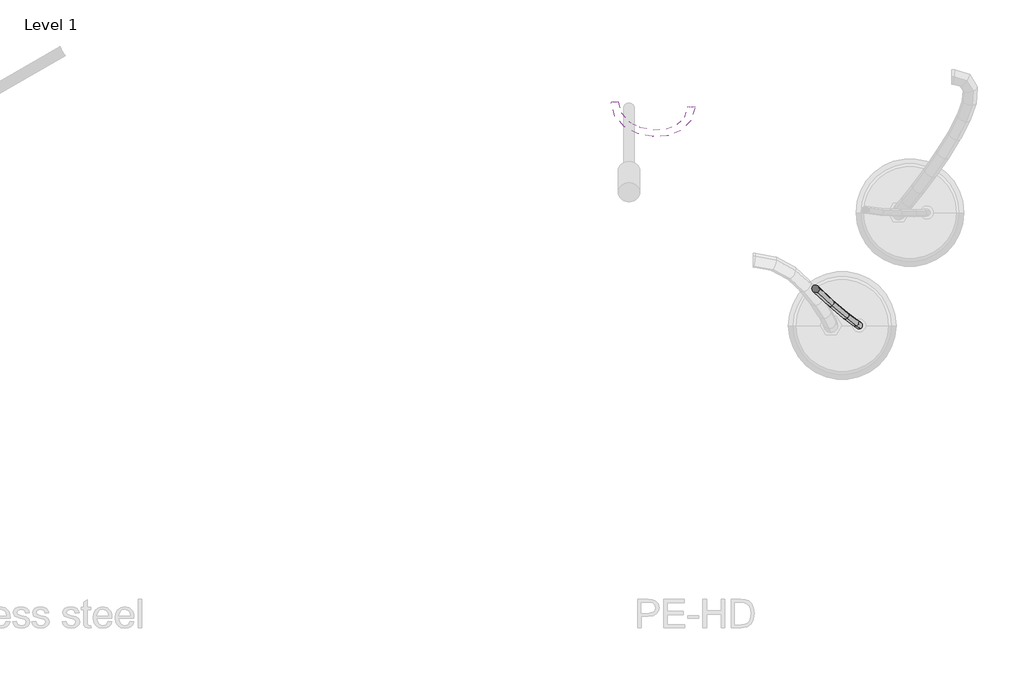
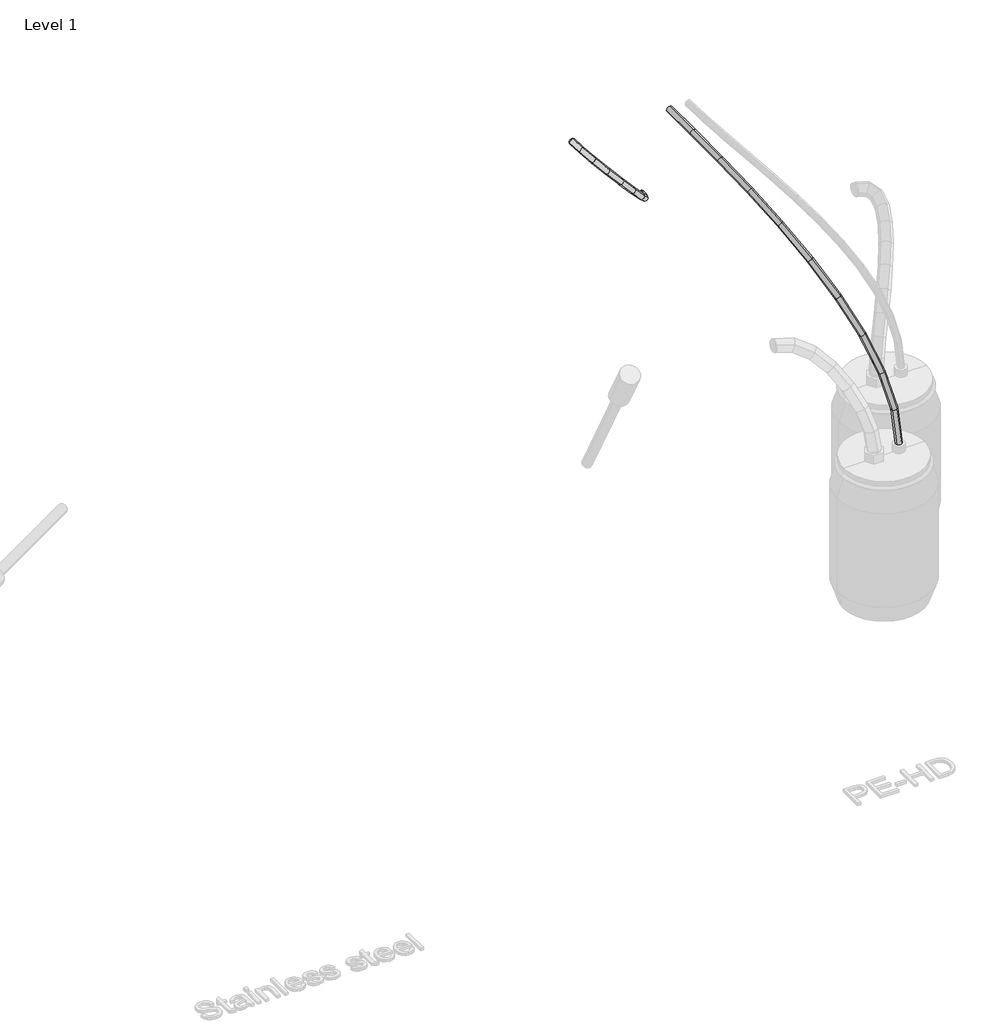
# One storey, part 2 of 6: 2 pipe segments.
"""IFC4 building model written with IfcOpenShell, lengths in millimetres."""

from ifc_helpers import new_model, si_unit, frame, origin, place, context, project, spatial, circle_curve, ellipse_curve, element, save
from ifc_brep_helpers import plane_surface, cylinder_surface, advanced_brep

model = new_model("IFC4")

# Units and contexts
model_context = context("Model", 3, world=origin())
ifc_project = project(units=[si_unit("LENGTHUNIT", "METRE", prefix="MILLI")], contexts=[model_context])

# Site, building, storey
site = spatial("IfcSite", under=ifc_project)
building = spatial("IfcBuilding", under=site)
storey = spatial("IfcBuildingStorey", under=building, Name="Level 1", Elevation=0.0)

# Pipe segments
placement = place(None, origin())
element("IfcPipeSegment", 1, ObjectType="Flex - Round", at=placement, inside=storey, context=model_context, shape_type="AdvancedBrep", body=[
    advanced_brep(
    [(2197.5, 3245.0, 1433.0), (2185.0, 3245.0, 1420.5), (2172.5, 3245.0, 1433.0), (2185.0, 3245.0, 1445.5), (2197.5, 3239.8098259, 1433.0), (2185.0, 3239.5752926, 1420.5), (2172.5, 3243.2327444, 1433.0), (2185.0, 3243.4672777, 1445.5), (1916.5965546, 3262.0, 1752.3976213), (1927.3976213, 3262.0, 1738.4034454), (1913.4034454, 3262.0, 1727.6023787), (1902.6023787, 3262.0, 1741.5965546), (2184.7946426, 3195.4060058, 1447.4464619), (2172.1433818, 3194.6428328, 1435.118451), (2162.0022324, 3206.5442066, 1444.9363506), (2174.6534932, 3207.3073796, 1457.2643615), (2152.0679457, 3163.2609591, 1484.6579284), (2139.1233216, 3162.2096367, 1472.6634825), (2133.5570543, 3178.6045834, 1477.2795716), (2146.5016784, 3179.6559058, 1489.2740175), (2107.4099086, 3146.2638656, 1535.4357706), (2094.2712607, 3145.1386966, 1523.661937), (2091.7307164, 3162.6852501, 1524.8376669), (2104.8693643, 3163.8104191, 1536.6115005), (2056.8225983, 3142.924196, 1592.955416), (2043.544584, 3141.7898264, 1581.3400471), (2043.1774017, 3159.4798607, 1580.044584), (2056.455416, 3160.6142304, 1591.6599529), (2006.2586689, 3152.6296316, 1650.4484764), (1992.8444923, 3151.5213975, 1638.9879291), (1994.6007061, 3168.8038591, 1635.2780861), (2008.0148827, 3169.9120932, 1646.7386334), (1961.7011989, 3175.1993895, 1701.1119701), (1948.1067799, 3174.1824538, 1689.8563651), (1952.6738011, 3190.0411531, 1682.9505299), (1966.2682201, 3191.0580887, 1694.2061349), (1929.2037183, 3211.211569, 1738.0628091), (1915.3473471, 3210.4849164, 1727.1050535), (1923.9994067, 3221.8167684, 1715.5543784), (1937.8557779, 3222.5434209, 1726.512134), (1916.5965546, 3256.9652115, 1752.3976213), (1902.6023787, 3256.7386764, 1741.5965546), (1913.4034454, 3260.2713987, 1727.6023787), (1927.3976213, 3260.4979337, 1738.4034454)],
    [
        (0, 1, circle_curve(frame((2185.0, 3245.0, 1433.0), z_axis=(0.0, 1.0, 0.0), x_axis=(1.0, 0.0, 0.0)), 12.5)),
        (1, 2, circle_curve(frame((2185.0, 3245.0, 1433.0), z_axis=(0.0, 1.0, 0.0), x_axis=(1.0, 0.0, 0.0)), 12.5)),
        (2, 3, circle_curve(frame((2185.0, 3245.0, 1433.0), z_axis=(0.0, 1.0, 0.0), x_axis=(1.0, 0.0, 0.0)), 12.5)),
        (3, 0, circle_curve(frame((2185.0, 3245.0, 1433.0), z_axis=(0.0, 1.0, 0.0), x_axis=(1.0, 0.0, 0.0)), 12.5)),
        (0, 4),
        (4, 5, ellipse_curve(frame((2185.0, 3241.5212852, 1433.0), z_axis=(0.13406582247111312, 0.9791777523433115, -0.15243780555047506), x_axis=(-0.646656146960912, 0.203004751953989, 0.7352719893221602)), 12.7658129, 12.5)),
        (5, 1),
        (5, 6, ellipse_curve(frame((2185.0, 3241.5212852, 1433.0), z_axis=(0.13406582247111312, 0.9791777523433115, -0.15243780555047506), x_axis=(-0.646656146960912, 0.203004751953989, 0.7352719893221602)), 12.7658129, 12.5)),
        (6, 2),
        (6, 7, ellipse_curve(frame((2185.0, 3241.5212852, 1433.0), z_axis=(0.13406582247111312, 0.9791777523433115, -0.15243780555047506), x_axis=(-0.646656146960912, 0.203004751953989, 0.7352719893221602)), 12.7658129, 12.5)),
        (7, 3),
        (7, 4, ellipse_curve(frame((2185.0, 3241.5212852, 1433.0), z_axis=(0.13406582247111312, 0.9791777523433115, -0.15243780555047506), x_axis=(-0.646656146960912, 0.203004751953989, 0.7352719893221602)), 12.7658129, 12.5)),
        (8, 9, circle_curve(frame((1915.0, 3262.0, 1740.0), z_axis=(0.0, 1.0, 0.0), x_axis=(0.12772436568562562, 0.0, 0.9918097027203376)), 12.5)),
        (9, 10, circle_curve(frame((1915.0, 3262.0, 1740.0), z_axis=(0.0, 1.0, 0.0), x_axis=(0.12772436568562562, 0.0, 0.9918097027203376)), 12.5)),
        (10, 11, circle_curve(frame((1915.0, 3262.0, 1740.0), z_axis=(0.0, 1.0, 0.0), x_axis=(0.12772436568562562, 0.0, 0.9918097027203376)), 12.5)),
        (11, 8, circle_curve(frame((1915.0, 3262.0, 1740.0), z_axis=(0.0, 1.0, 0.0), x_axis=(0.12772436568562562, 0.0, 0.9918097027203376)), 12.5)),
        (4, 12),
        (12, 13, ellipse_curve(frame((2173.3984375, 3200.9751062, 1446.1914062), z_axis=(0.4265078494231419, 0.76348509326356, -0.48495522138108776), x_axis=(-0.5042111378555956, 0.6458254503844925, 0.5733067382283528)), 13.0574394, 12.5)),
        (13, 5),
        (13, 14, ellipse_curve(frame((2173.3984375, 3200.9751062, 1446.1914062), z_axis=(0.4265078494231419, 0.76348509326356, -0.48495522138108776), x_axis=(-0.5042111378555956, 0.6458254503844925, 0.5733067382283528)), 13.0574394, 12.5)),
        (14, 6),
        (14, 15, ellipse_curve(frame((2173.3984375, 3200.9751062, 1446.1914062), z_axis=(0.4265078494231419, 0.76348509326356, -0.48495522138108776), x_axis=(-0.5042111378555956, 0.6458254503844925, 0.5733067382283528)), 13.0574394, 12.5)),
        (15, 7),
        (15, 12, ellipse_curve(frame((2173.3984375, 3200.9751062, 1446.1914062), z_axis=(0.4265078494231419, 0.76348509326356, -0.48495522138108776), x_axis=(-0.5042111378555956, 0.6458254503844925, 0.5733067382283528)), 13.0574394, 12.5)),
        (12, 16),
        (16, 17, ellipse_curve(frame((2142.8125, 3170.9327713, 1480.96875), z_axis=(0.6054502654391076, 0.3993854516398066, -0.6884193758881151), x_axis=(-0.2637570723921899, 0.9167831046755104, 0.2999015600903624)), 12.6712508, 12.5)),
        (17, 13),
        (17, 18, ellipse_curve(frame((2142.8125, 3170.9327713, 1480.96875), z_axis=(0.6054502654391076, 0.3993854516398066, -0.6884193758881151), x_axis=(-0.2637570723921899, 0.9167831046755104, 0.2999015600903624)), 12.6712508, 12.5)),
        (18, 14),
        (18, 19, ellipse_curve(frame((2142.8125, 3170.9327713, 1480.96875), z_axis=(0.6054502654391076, 0.3993854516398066, -0.6884193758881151), x_axis=(-0.2637570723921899, 0.9167831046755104, 0.2999015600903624)), 12.6712508, 12.5)),
        (19, 15),
        (19, 16, ellipse_curve(frame((2142.8125, 3170.9327713, 1480.96875), z_axis=(0.6054502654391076, 0.3993854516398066, -0.6884193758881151), x_axis=(-0.2637570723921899, 0.9167831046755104, 0.2999015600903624)), 12.6712508, 12.5)),
        (16, 20),
        (20, 21, ellipse_curve(frame((2099.5703125, 3154.4745578, 1530.1367188), z_axis=(0.6534853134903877, 0.14440552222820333, -0.7430370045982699), x_axis=(-0.09536646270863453, 0.989518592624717, 0.10843520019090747)), 12.5644634, 12.5)),
        (21, 17),
        (21, 22, ellipse_curve(frame((2099.5703125, 3154.4745578, 1530.1367188), z_axis=(0.6534853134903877, 0.14440552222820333, -0.7430370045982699), x_axis=(-0.09536646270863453, 0.989518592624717, 0.10843520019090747)), 12.5644634, 12.5)),
        (22, 18),
        (22, 23, ellipse_curve(frame((2099.5703125, 3154.4745578, 1530.1367188), z_axis=(0.6534853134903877, 0.14440552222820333, -0.7430370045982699), x_axis=(-0.09536646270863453, 0.989518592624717, 0.10843520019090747)), 12.5644634, 12.5)),
        (23, 19),
        (23, 20, ellipse_curve(frame((2099.5703125, 3154.4745578, 1530.1367188), z_axis=(0.6534853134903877, 0.14440552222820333, -0.7430370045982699), x_axis=(-0.09536646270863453, 0.989518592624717, 0.10843520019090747)), 12.5644634, 12.5)),
        (20, 24),
        (24, 25, ellipse_curve(frame((2050.0, 3151.2020284, 1586.5), z_axis=(0.6598452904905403, -0.041247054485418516, -0.7502685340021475), x_axis=(0.027239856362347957, 0.9991489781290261, -0.030972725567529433)), 12.5451109, 12.5)),
        (25, 21),
        (25, 26, ellipse_curve(frame((2050.0, 3151.2020284, 1586.5), z_axis=(0.6598452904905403, -0.041247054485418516, -0.7502685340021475), x_axis=(0.027239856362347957, 0.9991489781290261, -0.030972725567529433)), 12.5451109, 12.5)),
        (26, 22),
        (26, 27, ellipse_curve(frame((2050.0, 3151.2020284, 1586.5), z_axis=(0.6598452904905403, -0.041247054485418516, -0.7502685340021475), x_axis=(0.027239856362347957, 0.9991489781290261, -0.030972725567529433)), 12.5451109, 12.5)),
        (27, 23),
        (27, 24, ellipse_curve(frame((2050.0, 3151.2020284, 1586.5), z_axis=(0.6598452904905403, -0.041247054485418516, -0.7502685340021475), x_axis=(0.027239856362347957, 0.9991489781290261, -0.030972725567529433)), 12.5451109, 12.5)),
        (24, 28),
        (28, 29, ellipse_curve(frame((2000.4296875, 3160.7167453, 1642.8632813), z_axis=(0.6438417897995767, -0.22257222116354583, -0.7320719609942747), x_axis=(0.14698832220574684, 0.9749162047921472, -0.1671311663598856)), 12.5607158, 12.5)),
        (29, 25),
        (29, 30, ellipse_curve(frame((2000.4296875, 3160.7167453, 1642.8632813), z_axis=(0.6438417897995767, -0.22257222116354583, -0.7320719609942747), x_axis=(0.14698832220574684, 0.9749162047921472, -0.1671311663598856)), 12.5607158, 12.5)),
        (30, 26),
        (30, 31, ellipse_curve(frame((2000.4296875, 3160.7167453, 1642.8632813), z_axis=(0.6438417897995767, -0.22257222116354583, -0.7320719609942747), x_axis=(0.14698832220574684, 0.9749162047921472, -0.1671311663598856)), 12.5607158, 12.5)),
        (31, 27),
        (31, 28, ellipse_curve(frame((2000.4296875, 3160.7167453, 1642.8632813), z_axis=(0.6438417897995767, -0.22257222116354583, -0.7320719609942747), x_axis=(0.14698832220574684, 0.9749162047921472, -0.1671311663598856)), 12.5607158, 12.5)),
        (28, 32),
        (32, 33, ellipse_curve(frame((1957.1875, 3182.6202713, 1692.03125), z_axis=(0.5866010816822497, -0.459377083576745, -0.6669871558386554), x_axis=(0.3033759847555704, 0.8882413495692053, -0.3449497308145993)), 12.6506446, 12.5)),
        (33, 29),
        (33, 34, ellipse_curve(frame((1957.1875, 3182.6202713, 1692.03125), z_axis=(0.5866010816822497, -0.459377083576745, -0.6669871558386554), x_axis=(0.3033759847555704, 0.8882413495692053, -0.3449497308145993)), 12.6506446, 12.5)),
        (34, 30),
        (34, 35, ellipse_curve(frame((1957.1875, 3182.6202713, 1692.03125), z_axis=(0.5866010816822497, -0.459377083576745, -0.6669871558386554), x_axis=(0.3033759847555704, 0.8882413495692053, -0.3449497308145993)), 12.6506446, 12.5)),
        (35, 31),
        (35, 32, ellipse_curve(frame((1957.1875, 3182.6202713, 1692.03125), z_axis=(0.5866010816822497, -0.459377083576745, -0.6669871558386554), x_axis=(0.3033759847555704, 0.8882413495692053, -0.3449497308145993)), 12.6506446, 12.5)),
        (32, 36),
        (36, 37, ellipse_curve(frame((1926.6015625, 3216.5141687, 1726.8085938), z_axis=(0.40862644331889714, -0.7855886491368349, -0.4646234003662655), x_axis=(0.5188084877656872, 0.6187491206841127, -0.589904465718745)), 12.9766436, 12.5)),
        (37, 33),
        (37, 38, ellipse_curve(frame((1926.6015625, 3216.5141687, 1726.8085938), z_axis=(0.40862644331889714, -0.7855886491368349, -0.4646234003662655), x_axis=(0.5188084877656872, 0.6187491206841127, -0.589904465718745)), 12.9766436, 12.5)),
        (38, 34),
        (38, 39, ellipse_curve(frame((1926.6015625, 3216.5141687, 1726.8085938), z_axis=(0.40862644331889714, -0.7855886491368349, -0.4646234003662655), x_axis=(0.5188084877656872, 0.6187491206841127, -0.589904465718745)), 12.9766436, 12.5)),
        (39, 35),
        (39, 36, ellipse_curve(frame((1926.6015625, 3216.5141687, 1726.8085938), z_axis=(0.40862644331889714, -0.7855886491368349, -0.4646234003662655), x_axis=(0.5188084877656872, 0.6187491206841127, -0.589904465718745)), 12.9766436, 12.5)),
        (36, 40),
        (40, 41, ellipse_curve(frame((1915.0, 3258.6183051, 1740.0), z_axis=(0.12967305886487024, -0.9805332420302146, -0.1474430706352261), x_axis=(0.6475513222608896, 0.19635315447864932, -0.7362898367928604)), 12.7481655, 12.5)),
        (41, 37),
        (41, 42, ellipse_curve(frame((1915.0, 3258.6183051, 1740.0), z_axis=(0.12967305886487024, -0.9805332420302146, -0.1474430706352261), x_axis=(0.6475513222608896, 0.19635315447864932, -0.7362898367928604)), 12.7481655, 12.5)),
        (42, 38),
        (42, 43, ellipse_curve(frame((1915.0, 3258.6183051, 1740.0), z_axis=(0.12967305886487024, -0.9805332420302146, -0.1474430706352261), x_axis=(0.6475513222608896, 0.19635315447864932, -0.7362898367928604)), 12.7481655, 12.5)),
        (43, 39),
        (43, 40, ellipse_curve(frame((1915.0, 3258.6183051, 1740.0), z_axis=(0.12967305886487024, -0.9805332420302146, -0.1474430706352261), x_axis=(0.6475513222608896, 0.19635315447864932, -0.7362898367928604)), 12.7481655, 12.5)),
        (40, 8),
        (11, 41),
        (10, 42),
        (9, 43),
    ],
    [
        plane_surface(frame((2172.5, 3245.0, 1433.0), z_axis=(0.0, 1.0, 0.0), x_axis=(0.0, 0.0, -1.0))),
        cylinder_surface(frame((2185.0, 3245.0, 1433.0), z_axis=(0.0, 1.0, 0.0), x_axis=(1.0, 0.0, 0.0)), 12.5),
        plane_surface(frame((1902.5, 3262.0, 1740.0), z_axis=(0.0, 1.0, 0.0), x_axis=(0.0, 0.0, 1.0))),
        cylinder_surface(frame((2185.0, 3241.5212852, 1433.0), z_axis=(0.26254854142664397, 0.917578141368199, -0.2985274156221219), x_axis=(0.964052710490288, -0.26254854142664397, 0.04087339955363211)), 12.5),
        cylinder_surface(frame((2173.3984375, 3200.9751062, 1446.1914062), z_axis=(0.554050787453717, 0.5442036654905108, -0.6299762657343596), x_axis=(0.801209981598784, -0.5540507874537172, 0.226031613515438)), 12.5),
        cylinder_surface(frame((2142.8125, 3170.9327713, 1480.96875), z_axis=(0.6404845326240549, 0.2437719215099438, -0.7282546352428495), x_axis=(0.6701803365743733, -0.6404845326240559, 0.3750171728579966)), 12.5),
        cylinder_surface(frame((2099.5703125, 3154.4745578, 1530.1367188), z_axis=(0.6597805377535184, 0.0435573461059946, -0.7501949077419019), x_axis=(0.582859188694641, -0.6597805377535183, 0.47430455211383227)), 12.5),
        cylinder_surface(frame((2050.0, 3151.2020284, 1586.5), z_axis=(0.6551645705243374, -0.12575481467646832, -0.7449463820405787), x_axis=(0.5090157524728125, -0.6551645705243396, 0.558267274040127)), 12.5),
        cylinder_surface(frame((2000.4296875, 3160.7167453, 1642.8632813), z_axis=(0.6262946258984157, -0.31723789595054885, -0.7121201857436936), x_axis=(0.4255027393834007, -0.626294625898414, 0.6532246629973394)), 12.5),
        cylinder_surface(frame((1957.1875, 3182.6202713, 1692.03125), z_axis=(0.532936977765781, -0.5905756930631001, -0.6059690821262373), x_axis=(0.3062897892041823, -0.5329369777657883, 0.7887742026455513)), 12.5),
        cylinder_surface(frame((1926.6015625, 3216.5141687, 1726.8085938), z_axis=(0.25429748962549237, -0.9228908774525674, -0.28914566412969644), x_axis=(0.16135457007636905, -0.2542974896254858, 0.9535709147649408)), 12.5),
        cylinder_surface(frame((1915.0, 3258.6183051, 1740.0), z_axis=(0.0, -1.0, 0.0), x_axis=(0.12772436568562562, 0.0, 0.9918097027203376)), 12.5),
    ],
    [
        (0, [[1, 2, 3, 4]]),
        (1, [[-1, 5, 6, 7]]),
        (1, [[-2, -7, 8, 9]]),
        (1, [[-3, -9, 10, 11]]),
        (1, [[-4, -11, 12, -5]]),
        (2, [[13, 14, 15, 16]]),
        (3, [[-6, 17, 18, 19]]),
        (3, [[-8, -19, 20, 21]]),
        (3, [[-10, -21, 22, 23]]),
        (3, [[-12, -23, 24, -17]]),
        (4, [[-18, 25, 26, 27]]),
        (4, [[-20, -27, 28, 29]]),
        (4, [[-22, -29, 30, 31]]),
        (4, [[-24, -31, 32, -25]]),
        (5, [[-26, 33, 34, 35]]),
        (5, [[-28, -35, 36, 37]]),
        (5, [[-30, -37, 38, 39]]),
        (5, [[-32, -39, 40, -33]]),
        (6, [[-34, 41, 42, 43]]),
        (6, [[-36, -43, 44, 45]]),
        (6, [[-38, -45, 46, 47]]),
        (6, [[-40, -47, 48, -41]]),
        (7, [[-42, 49, 50, 51]]),
        (7, [[-44, -51, 52, 53]]),
        (7, [[-46, -53, 54, 55]]),
        (7, [[-48, -55, 56, -49]]),
        (8, [[-50, 57, 58, 59]]),
        (8, [[-52, -59, 60, 61]]),
        (8, [[-54, -61, 62, 63]]),
        (8, [[-56, -63, 64, -57]]),
        (9, [[-58, 65, 66, 67]]),
        (9, [[-60, -67, 68, 69]]),
        (9, [[-62, -69, 70, 71]]),
        (9, [[-64, -71, 72, -65]]),
        (10, [[-66, 73, 74, 75]]),
        (10, [[-68, -75, 76, 77]]),
        (10, [[-70, -77, 78, 79]]),
        (10, [[-72, -79, 80, -73]]),
        (11, [[-74, 81, -16, 82]]),
        (11, [[-76, -82, -15, 83]]),
        (11, [[-78, -83, -14, 84]]),
        (11, [[-80, -84, -13, -81]]),
    ],
),
])
element("IfcPipeSegment", 2, ObjectType="Flex - Round", at=placement, inside=storey, context=model_context, shape_type="AdvancedBrep", body=[
    advanced_brep(
    [(2322.4444711, 3263.1769193, 1740.0), (2309.848452, 3263.6024332, 1727.6040635), (2297.5555289, 3260.8230807, 1740.0), (2310.151548, 3260.3975668, 1752.3959365), (2335.5061145, 3125.0661378, 1721.9866155), (2322.8659732, 3125.9581898, 1709.6515282), (2310.8138855, 3120.6323004, 1721.7153274), (2323.4540268, 3119.7402483, 1734.0504146), (2791.2875626, 2475.3280788, 628.3074562), (2785.2556493, 2458.7186648, 628.8007998), (2768.7124374, 2464.6719212, 626.962084), (2774.7443507, 2481.2813352, 626.4687405), (2370.7699568, 2998.635336, 1671.3173548), (2357.8876976, 3000.3954489, 1659.3301575), (2346.9900432, 2990.9305909, 1669.7351956), (2359.8723024, 2989.170478, 1681.722393), (2422.9658123, 2883.4727476, 1592.1740209), (2409.7350534, 2886.0017745, 1580.7152452), (2400.0741877, 2873.8081216, 1589.2449702), (2413.3049466, 2871.2790947, 1600.7037458), (2486.5651983, 2780.6116849, 1489.0685121), (2472.9217366, 2783.8081875, 1478.2787985), (2464.3148017, 2769.9099828, 1485.0999208), (2477.9582634, 2766.7134803, 1495.8896345), (2555.9428506, 2691.0695604, 1366.6401007), (2541.8351633, 2694.8652149, 1356.6695905), (2534.0571494, 2679.8971651, 1362.0279439), (2548.1648367, 2676.1015106, 1371.9984541), (2625.4444626, 2615.7966567, 1229.5637329), (2610.8178892, 2620.1542846, 1220.6166092), (2603.6755374, 2604.4977885, 1224.7212614), (2618.3021108, 2600.1401605, 1233.6683851), (2689.4124452, 2555.6959673, 1082.5041511), (2674.2083926, 2560.5961619, 1074.8846267), (2667.5475548, 2544.4872624, 1077.8822993), (2682.7516074, 2539.5870678, 1085.5018237), (2742.1861364, 2511.6485081, 930.0946183), (2726.3611444, 2517.0669687, 924.2683569), (2720.0538636, 2500.6629736, 926.2449628), (2735.8788556, 2495.244513, 932.0712243), (2778.0835851, 2484.5375542, 776.9234479), (2761.6724427, 2490.3986951, 773.5982368), (2755.5964149, 2473.82005, 774.5881071), (2772.0075573, 2467.9589091, 777.9133182)],
    [
        (0, 1, circle_curve(frame((2310.0, 3262.0, 1740.0), z_axis=(-0.09336970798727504, 0.9872695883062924, 0.1287666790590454), x_axis=(0.9955576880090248, 0.09415354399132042, 0.0)), 12.5)),
        (1, 2, circle_curve(frame((2310.0, 3262.0, 1740.0), z_axis=(-0.09336970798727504, 0.9872695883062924, 0.1287666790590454), x_axis=(0.9955576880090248, 0.09415354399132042, 0.0)), 12.5)),
        (2, 3, circle_curve(frame((2310.0, 3262.0, 1740.0), z_axis=(-0.09336970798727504, 0.9872695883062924, 0.1287666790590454), x_axis=(0.9955576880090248, 0.09415354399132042, 0.0)), 12.5)),
        (3, 0, circle_curve(frame((2310.0, 3262.0, 1740.0), z_axis=(-0.09336970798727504, 0.9872695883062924, 0.1287666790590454), x_axis=(0.9955576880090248, 0.09415354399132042, 0.0)), 12.5)),
        (0, 4),
        (4, 5, ellipse_curve(frame((2323.16, 3122.8492191, 1721.8509714), z_axis=(-0.17388533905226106, 0.9532543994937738, 0.24712332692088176), x_axis=(0.5358905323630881, 0.30213303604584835, -0.7883761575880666)), 12.6367811, 12.5)),
        (5, 1),
        (5, 6, ellipse_curve(frame((2323.16, 3122.8492191, 1721.8509714), z_axis=(-0.17388533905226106, 0.9532543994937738, 0.24712332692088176), x_axis=(0.5358905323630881, 0.30213303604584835, -0.7883761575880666)), 12.6367811, 12.5)),
        (6, 2),
        (6, 7, ellipse_curve(frame((2323.16, 3122.8492191, 1721.8509714), z_axis=(-0.17388533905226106, 0.9532543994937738, 0.24712332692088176), x_axis=(0.5358905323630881, 0.30213303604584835, -0.7883761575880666)), 12.6367811, 12.5)),
        (7, 3),
        (7, 4, ellipse_curve(frame((2323.16, 3122.8492191, 1721.8509714), z_axis=(-0.17388533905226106, 0.9532543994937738, 0.24712332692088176), x_axis=(0.5358905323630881, 0.30213303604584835, -0.7883761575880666)), 12.6367811, 12.5)),
        (8, 9, circle_curve(frame((2780.0, 2470.0, 627.6347701), z_axis=(0.08832957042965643, -0.06160787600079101, -0.9941842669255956), x_axis=(0.9030050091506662, 0.42624630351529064, 0.05381488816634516)), 12.5)),
        (9, 10, circle_curve(frame((2780.0, 2470.0, 627.6347701), z_axis=(0.08832957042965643, -0.06160787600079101, -0.9941842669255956), x_axis=(0.9030050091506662, 0.42624630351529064, 0.05381488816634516)), 12.5)),
        (10, 11, circle_curve(frame((2780.0, 2470.0, 627.6347701), z_axis=(0.08832957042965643, -0.06160787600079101, -0.9941842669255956), x_axis=(0.9030050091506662, 0.42624630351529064, 0.05381488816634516)), 12.5)),
        (11, 8, circle_curve(frame((2780.0, 2470.0, 627.6347701), z_axis=(0.08832957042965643, -0.06160787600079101, -0.9941842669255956), x_axis=(0.9030050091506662, 0.42624630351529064, 0.05381488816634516)), 12.5)),
        (4, 12),
        (12, 13, ellipse_curve(frame((2358.88, 2994.7829635, 1670.5262752), z_axis=(-0.3023603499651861, 0.8411178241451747, 0.4484406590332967), x_axis=(0.4236268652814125, 0.5400234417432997, -0.7272653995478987)), 12.5867138, 12.5)),
        (13, 5),
        (13, 14, ellipse_curve(frame((2358.88, 2994.7829635, 1670.5262752), z_axis=(-0.3023603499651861, 0.8411178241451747, 0.4484406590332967), x_axis=(0.4236268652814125, 0.5400234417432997, -0.7272653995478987)), 12.5867138, 12.5)),
        (14, 6),
        (14, 15, ellipse_curve(frame((2358.88, 2994.7829635, 1670.5262752), z_axis=(-0.3023603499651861, 0.8411178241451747, 0.4484406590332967), x_axis=(0.4236268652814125, 0.5400234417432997, -0.7272653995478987)), 12.5867138, 12.5)),
        (15, 7),
        (15, 12, ellipse_curve(frame((2358.88, 2994.7829635, 1670.5262752), z_axis=(-0.3023603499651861, 0.8411178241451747, 0.4484406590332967), x_axis=(0.4236268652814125, 0.5400234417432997, -0.7272653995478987)), 12.5867138, 12.5)),
        (12, 16),
        (16, 17, ellipse_curve(frame((2411.52, 2878.6404346, 1590.7094955), z_axis=(-0.3765687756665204, 0.7125064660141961, 0.592056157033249), x_axis=(0.2807175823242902, 0.6968166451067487, -0.6600334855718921)), 12.5504223, 12.5)),
        (17, 13),
        (17, 18, ellipse_curve(frame((2411.52, 2878.6404346, 1590.7094955), z_axis=(-0.3765687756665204, 0.7125064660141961, 0.592056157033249), x_axis=(0.2807175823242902, 0.6968166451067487, -0.6600334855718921)), 12.5504223, 12.5)),
        (18, 14),
        (18, 19, ellipse_curve(frame((2411.52, 2878.6404346, 1590.7094955), z_axis=(-0.3765687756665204, 0.7125064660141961, 0.592056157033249), x_axis=(0.2807175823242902, 0.6968166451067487, -0.6600334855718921)), 12.5504223, 12.5)),
        (19, 15),
        (19, 16, ellipse_curve(frame((2411.52, 2878.6404346, 1590.7094955), z_axis=(-0.3765687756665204, 0.7125064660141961, 0.592056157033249), x_axis=(0.2807175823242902, 0.6968166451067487, -0.6600334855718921)), 12.5504223, 12.5)),
        (16, 20),
        (20, 21, ellipse_curve(frame((2475.44, 2775.2608339, 1487.0842165), z_axis=(-0.409081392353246, 0.5935092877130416, 0.6931083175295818), x_axis=(0.11226798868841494, 0.7865379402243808, -0.6072511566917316)), 12.5308964, 12.5)),
        (21, 17),
        (21, 22, ellipse_curve(frame((2475.44, 2775.2608339, 1487.0842165), z_axis=(-0.409081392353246, 0.5935092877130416, 0.6931083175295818), x_axis=(0.11226798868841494, 0.7865379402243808, -0.6072511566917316)), 12.5308964, 12.5)),
        (22, 18),
        (22, 23, ellipse_curve(frame((2475.44, 2775.2608339, 1487.0842165), z_axis=(-0.409081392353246, 0.5935092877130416, 0.6931083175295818), x_axis=(0.11226798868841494, 0.7865379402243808, -0.6072511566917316)), 12.5308964, 12.5)),
        (23, 19),
        (23, 20, ellipse_curve(frame((2475.44, 2775.2608339, 1487.0842165), z_axis=(-0.409081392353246, 0.5935092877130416, 0.6931083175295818), x_axis=(0.11226798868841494, 0.7865379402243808, -0.6072511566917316)), 12.5308964, 12.5)),
        (20, 24),
        (24, 25, ellipse_curve(frame((2545.0, 2685.4833628, 1364.3340223), z_axis=(-0.41176002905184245, 0.4892053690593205, 0.7688509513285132), x_axis=(-0.08306120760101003, 0.8200337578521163, -0.5662556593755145)), 12.5219183, 12.5)),
        (25, 21),
        (25, 26, ellipse_curve(frame((2545.0, 2685.4833628, 1364.3340223), z_axis=(-0.41176002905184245, 0.4892053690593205, 0.7688509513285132), x_axis=(-0.08306120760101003, 0.8200337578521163, -0.5662556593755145)), 12.5219183, 12.5)),
        (26, 22),
        (26, 27, ellipse_curve(frame((2545.0, 2685.4833628, 1364.3340223), z_axis=(-0.41176002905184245, 0.4892053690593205, 0.7688509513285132), x_axis=(-0.08306120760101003, 0.8200337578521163, -0.5662556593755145)), 12.5219183, 12.5)),
        (27, 23),
        (27, 24, ellipse_curve(frame((2545.0, 2685.4833628, 1364.3340223), z_axis=(-0.41176002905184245, 0.4892053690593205, 0.7688509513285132), x_axis=(-0.08306120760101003, 0.8200337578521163, -0.5662556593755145)), 12.5219183, 12.5)),
        (24, 28),
        (28, 29, ellipse_curve(frame((2614.56, 2610.1472226, 1227.1424971), z_axis=(-0.39041938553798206, 0.39599939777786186, 0.8311180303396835), x_axis=(-0.2941042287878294, 0.8018121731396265, -0.5201922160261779)), 12.5192616, 12.5)),
        (29, 25),
        (29, 30, ellipse_curve(frame((2614.56, 2610.1472226, 1227.1424971), z_axis=(-0.39041938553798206, 0.39599939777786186, 0.8311180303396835), x_axis=(-0.2941042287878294, 0.8018121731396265, -0.5201922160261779)), 12.5192616, 12.5)),
        (30, 26),
        (30, 31, ellipse_curve(frame((2614.56, 2610.1472226, 1227.1424971), z_axis=(-0.39041938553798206, 0.39599939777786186, 0.8311180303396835), x_axis=(-0.2941042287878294, 0.8018121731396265, -0.5201922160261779)), 12.5192616, 12.5)),
        (31, 27),
        (31, 28, ellipse_curve(frame((2614.56, 2610.1472226, 1227.1424971), z_axis=(-0.39041938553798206, 0.39599939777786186, 0.8311180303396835), x_axis=(-0.2941042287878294, 0.8018121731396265, -0.5201922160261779)), 12.5192616, 12.5)),
        (28, 32),
        (32, 33, ellipse_curve(frame((2678.48, 2550.0916148, 1080.1932252), z_axis=(-0.3451726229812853, 0.3077212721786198, 0.8866586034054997), x_axis=(-0.49263233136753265, 0.7447140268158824, -0.45023816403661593)), 12.5216156, 12.5)),
        (33, 29),
        (33, 34, ellipse_curve(frame((2678.48, 2550.0916148, 1080.1932252), z_axis=(-0.3451726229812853, 0.3077212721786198, 0.8866586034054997), x_axis=(-0.49263233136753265, 0.7447140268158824, -0.45023816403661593)), 12.5216156, 12.5)),
        (34, 30),
        (34, 35, ellipse_curve(frame((2678.48, 2550.0916148, 1080.1932252), z_axis=(-0.3451726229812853, 0.3077212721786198, 0.8866586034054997), x_axis=(-0.49263233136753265, 0.7447140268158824, -0.45023816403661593)), 12.5216156, 12.5)),
        (35, 31),
        (35, 32, ellipse_curve(frame((2678.48, 2550.0916148, 1080.1932252), z_axis=(-0.3451726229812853, 0.3077212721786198, 0.8866586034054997), x_axis=(-0.49263233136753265, 0.7447140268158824, -0.45023816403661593)), 12.5216156, 12.5)),
        (32, 36),
        (36, 37, ellipse_curve(frame((2731.12, 2506.1557409, 928.1697906), z_axis=(-0.2709081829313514, 0.21716260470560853, 0.937789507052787), x_axis=(-0.6534148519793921, 0.6739081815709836, -0.3448141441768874)), 12.530268, 12.5)),
        (37, 33),
        (37, 38, ellipse_curve(frame((2731.12, 2506.1557409, 928.1697906), z_axis=(-0.2709081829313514, 0.21716260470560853, 0.937789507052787), x_axis=(-0.6534148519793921, 0.6739081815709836, -0.3448141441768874)), 12.530268, 12.5)),
        (38, 34),
        (38, 39, ellipse_curve(frame((2731.12, 2506.1557409, 928.1697906), z_axis=(-0.2709081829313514, 0.21716260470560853, 0.937789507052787), x_axis=(-0.6534148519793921, 0.6739081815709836, -0.3448141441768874)), 12.530268, 12.5)),
        (39, 35),
        (39, 36, ellipse_curve(frame((2731.12, 2506.1557409, 928.1697906), z_axis=(-0.2709081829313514, 0.21716260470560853, 0.937789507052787), x_axis=(-0.6534148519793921, 0.6739081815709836, -0.3448141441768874)), 12.530268, 12.5)),
        (36, 40),
        (40, 41, ellipse_curve(frame((2766.84, 2479.1788021, 775.7557775), z_axis=(-0.1572184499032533, 0.11617572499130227, 0.9807066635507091), x_axis=(-0.7685872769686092, 0.6091807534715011, -0.1953776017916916)), 12.5496021, 12.5)),
        (41, 37),
        (41, 42, ellipse_curve(frame((2766.84, 2479.1788021, 775.7557775), z_axis=(-0.1572184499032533, 0.11617572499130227, 0.9807066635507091), x_axis=(-0.7685872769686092, 0.6091807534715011, -0.1953776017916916)), 12.5496021, 12.5)),
        (42, 38),
        (42, 43, ellipse_curve(frame((2766.84, 2479.1788021, 775.7557775), z_axis=(-0.1572184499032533, 0.11617572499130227, 0.9807066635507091), x_axis=(-0.7685872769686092, 0.6091807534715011, -0.1953776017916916)), 12.5496021, 12.5)),
        (43, 39),
        (43, 40, ellipse_curve(frame((2766.84, 2479.1788021, 775.7557775), z_axis=(-0.1572184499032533, 0.11617572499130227, 0.9807066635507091), x_axis=(-0.7685872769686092, 0.6091807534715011, -0.1953776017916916)), 12.5496021, 12.5)),
        (40, 8),
        (11, 41),
        (10, 42),
        (9, 43),
    ],
    [
        plane_surface(frame((2310.0, 3263.6166458, 1727.6049826), z_axis=(-0.09336970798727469, 0.9872695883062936, 0.12876667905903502), x_axis=(0.995631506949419, 0.09258553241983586, 0.012075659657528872))),
        cylinder_surface(frame((2310.0, 3262.0, 1740.0), z_axis=(-0.09336970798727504, 0.9872695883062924, 0.1287666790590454), x_axis=(0.9955576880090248, 0.09415354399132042, 0.0)), 12.5),
        plane_surface(frame((2780.0, 2482.4760685, 626.8616498), z_axis=(0.08832957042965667, -0.06160787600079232, -0.9941842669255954), x_axis=(0.9960913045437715, 0.005463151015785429, 0.08816046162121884))),
        cylinder_surface(frame((2323.16, 3122.8492191, 1721.8509714), z_axis=(-0.2506366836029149, 0.8986030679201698, 0.36013022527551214), x_axis=(0.9665673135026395, 0.253081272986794, 0.041200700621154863)), 12.5),
        cylinder_surface(frame((2358.88, 2994.7829635, 1670.5262752), z_axis=(-0.34991790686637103, 0.772043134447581, 0.5305721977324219), x_axis=(0.9297371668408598, 0.3555368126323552, 0.0958247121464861)), 12.5),
        cylinder_surface(frame((2411.52, 2878.6404346, 1590.7094955), z_axis=(-0.4001938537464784, 0.6472446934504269, 0.6487828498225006), x_axis=(0.8995709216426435, 0.4126144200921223, 0.14325326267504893)), 12.5),
        cylinder_surface(frame((2475.44, 2775.2608339, 1487.0842165), z_axis=(-0.4159516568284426, 0.5368471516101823, 0.7340159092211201), x_axis=(0.8800845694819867, 0.44088588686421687, 0.17626907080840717)), 12.5),
        cylinder_surface(frame((2545.0, 2685.4833628, 1364.3340223), z_axis=(-0.40612691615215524, 0.43985098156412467, 0.8009944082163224), x_axis=(0.8708815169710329, 0.45181988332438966, 0.19345329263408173)), 12.5),
        cylinder_surface(frame((2614.56, 2610.1472226, 1227.1424971), z_axis=(-0.3735104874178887, 0.3509292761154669, 0.8586842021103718), x_axis=(0.8706424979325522, 0.452062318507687, 0.19396211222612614)), 12.5),
        cylinder_surface(frame((2678.48, 2550.0916148, 1080.1932252), z_axis=(-0.3156430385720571, 0.2634508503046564, 0.9115717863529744), x_axis=(0.8779362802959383, 0.44555991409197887, 0.17522628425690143)), 12.5),
        cylinder_surface(frame((2731.12, 2506.1557409, 928.1697906), z_axis=(-0.22486452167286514, 0.16982520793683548, 0.9594765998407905), x_axis=(0.890530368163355, 0.43546437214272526, 0.13162995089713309)), 12.5),
        cylinder_surface(frame((2766.84, 2479.1788021, 775.7557775), z_axis=(-0.08832957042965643, 0.06160787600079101, 0.9941842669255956), x_axis=(0.9030050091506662, 0.42624630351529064, 0.05381488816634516)), 12.5),
    ],
    [
        (0, [[1, 2, 3, 4]]),
        (1, [[-1, 5, 6, 7]]),
        (1, [[-2, -7, 8, 9]]),
        (1, [[-3, -9, 10, 11]]),
        (1, [[-4, -11, 12, -5]]),
        (2, [[13, 14, 15, 16]]),
        (3, [[-6, 17, 18, 19]]),
        (3, [[-8, -19, 20, 21]]),
        (3, [[-10, -21, 22, 23]]),
        (3, [[-12, -23, 24, -17]]),
        (4, [[-18, 25, 26, 27]]),
        (4, [[-20, -27, 28, 29]]),
        (4, [[-22, -29, 30, 31]]),
        (4, [[-24, -31, 32, -25]]),
        (5, [[-26, 33, 34, 35]]),
        (5, [[-28, -35, 36, 37]]),
        (5, [[-30, -37, 38, 39]]),
        (5, [[-32, -39, 40, -33]]),
        (6, [[-34, 41, 42, 43]]),
        (6, [[-36, -43, 44, 45]]),
        (6, [[-38, -45, 46, 47]]),
        (6, [[-40, -47, 48, -41]]),
        (7, [[-42, 49, 50, 51]]),
        (7, [[-44, -51, 52, 53]]),
        (7, [[-46, -53, 54, 55]]),
        (7, [[-48, -55, 56, -49]]),
        (8, [[-50, 57, 58, 59]]),
        (8, [[-52, -59, 60, 61]]),
        (8, [[-54, -61, 62, 63]]),
        (8, [[-56, -63, 64, -57]]),
        (9, [[-58, 65, 66, 67]]),
        (9, [[-60, -67, 68, 69]]),
        (9, [[-62, -69, 70, 71]]),
        (9, [[-64, -71, 72, -65]]),
        (10, [[-66, 73, 74, 75]]),
        (10, [[-68, -75, 76, 77]]),
        (10, [[-70, -77, 78, 79]]),
        (10, [[-72, -79, 80, -73]]),
        (11, [[-74, 81, -16, 82]]),
        (11, [[-76, -82, -15, 83]]),
        (11, [[-78, -83, -14, 84]]),
        (11, [[-80, -84, -13, -81]]),
    ],
),
])

save(model, "model.ifc")
